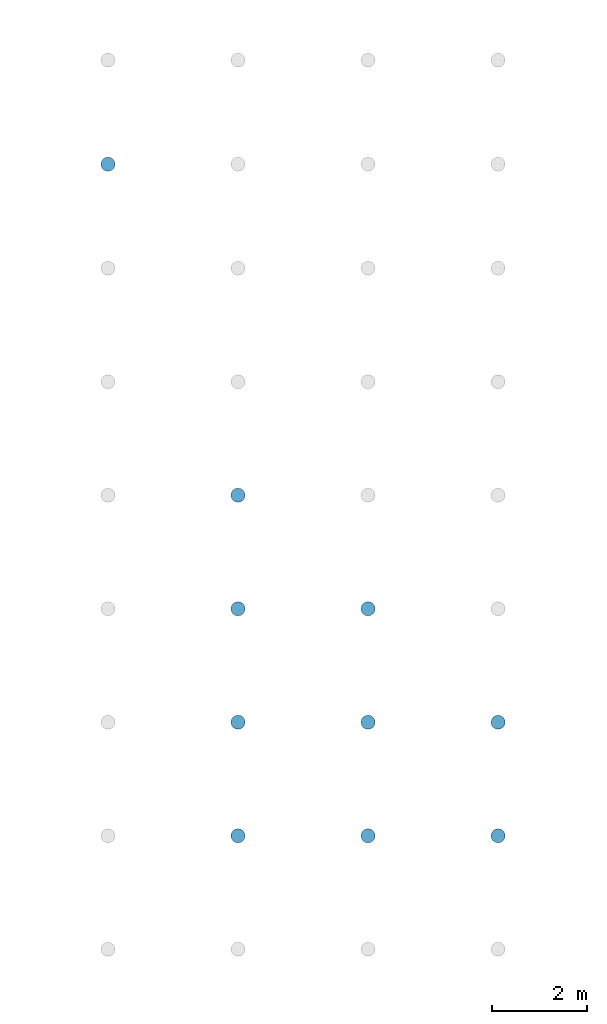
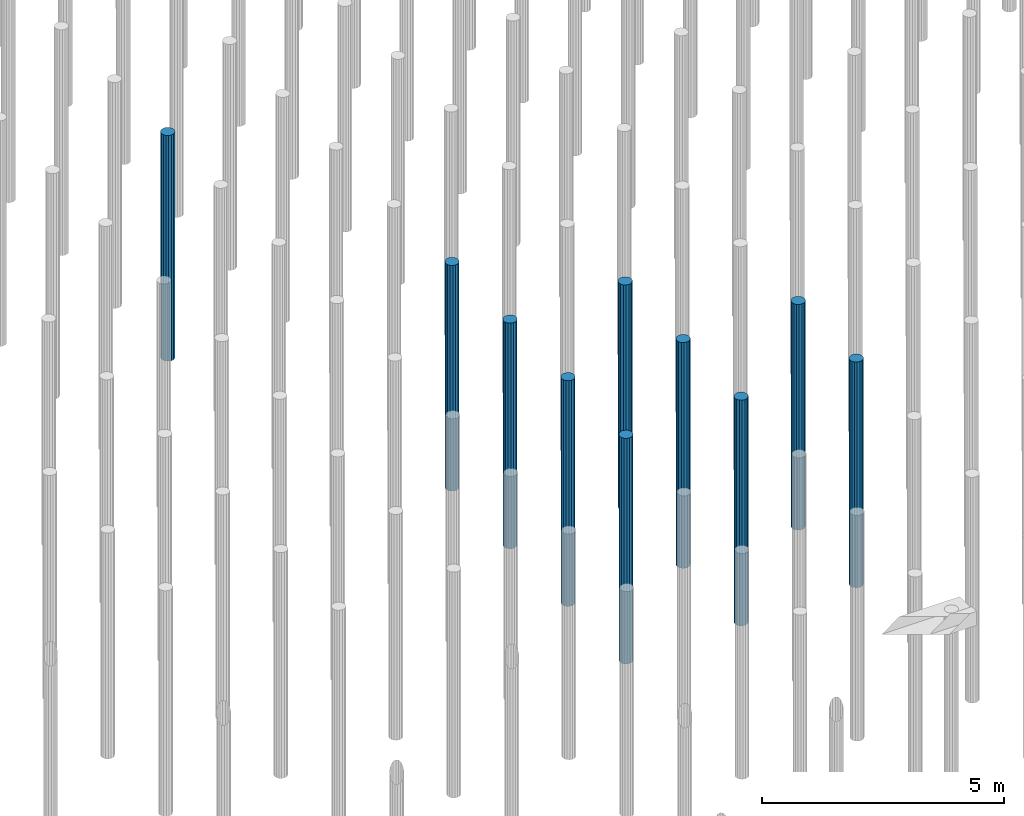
# One storey, part 60 of 102: 10 slabs.
"""IFC2X3 building model written with IfcOpenShell, lengths in millimetres."""

import ifcopenshell
import ifcopenshell.guid

model = None  # the IFC model being written
_history = None  # IfcOwnerHistory: only IFC2X3 demands one
_inside = {}  # id of a spatial element -> (the spatial element, [elements in it])
_under = {}  # id of a project, library or spatial element -> (it, [spatial elements below it])
_declared = {}  # id of a project -> (the project, [libraries it declares])
_typed = {}  # id of a type object -> (the type object, [elements of that type])
_made_of = {}  # id of a material, layer set ... -> (it, [elements and type objects made of it])


def new_model(schema):
    """Start an empty IFC model of exactly this schema.

    Asked for "IFC4X3", IfcOpenShell would pick the latest addendum, in which some entities
    have other attributes; the version numbers below select the first issue.
    IFC2X3 requires an IfcOwnerHistory on every rooted entity: one is made here for all.
    """
    global model, _history
    if schema == "IFC4X3":
        model = ifcopenshell.file(schema_version=(4, 3, 0, 0))
    else:
        model = ifcopenshell.file(schema=schema)
    _inside.clear()
    _under.clear()
    _declared.clear()
    _typed.clear()
    _made_of.clear()
    _history = None
    if model.schema == "IFC2X3":
        org = make("IfcOrganization", Name="unknown")
        user = make(
            "IfcPersonAndOrganization",
            ThePerson=make("IfcPerson", FamilyName="unknown"),
            TheOrganization=org,
        )
        app = make(
            "IfcApplication",
            ApplicationDeveloper=org,
            Version="unknown",
            ApplicationFullName="unknown",
            ApplicationIdentifier="unknown",
        )
        _history = make(
            "IfcOwnerHistory",
            OwningUser=user,
            OwningApplication=app,
            ChangeAction="ADDED",
            CreationDate=0,
        )
    return model


def make(cls, **values):
    """One entity of the class cls with the attributes given. An attribute that is None is left unset."""
    return model.create_entity(
        cls, **{name: value for name, value in values.items() if value is not None}
    )


def entity(cls, *values):
    """Any entity or typed value of the class cls, its attributes in the order of the schema. None: left unset."""
    e = model.create_entity(cls)
    for i, value in enumerate(values):
        if value is not None:
            e[i] = value
    return e


def rooted(cls, **values):
    """An entity with a GlobalId (a new one), such as an element, a storey or a relation."""
    return make(cls, GlobalId=ifcopenshell.guid.new(), OwnerHistory=_history, **values)


def si_unit(unit_type, name, prefix=None):
    """IfcSIUnit, for example si_unit("LENGTHUNIT", "METRE", prefix="MILLI")."""
    return make("IfcSIUnit", UnitType=unit_type, Prefix=prefix, Name=name)


def converted_unit(unit_type, name, factor, base, dimensions=None, offset=None):
    """IfcConversionBasedUnit, such as the inch: factor (a typed value) times the base unit."""
    return make(
        "IfcConversionBasedUnit"
        if offset is None
        else "IfcConversionBasedUnitWithOffset",
        ConversionOffset=offset,
        Dimensions=None
        if dimensions is None
        else entity("IfcDimensionalExponents", *dimensions),
        UnitType=unit_type,
        Name=name,
        ConversionFactor=make(
            "IfcMeasureWithUnit", ValueComponent=factor, UnitComponent=base
        ),
    )


def derived_unit(unit_type, elements):
    """IfcDerivedUnit: a product of units, each with its exponent."""
    return make(
        "IfcDerivedUnit",
        Elements=[
            make("IfcDerivedUnitElement", Unit=unit, Exponent=power)
            for unit, power in elements
        ],
        UnitType=unit_type,
    )


def money_unit(currency):
    """IfcMonetaryUnit."""
    return make("IfcMonetaryUnit", Currency=currency)


def assignment(units):
    """IfcUnitAssignment: the units of a project."""
    return None if units is None else make("IfcUnitAssignment", Units=units)


def point(xyz):
    """IfcCartesianPoint."""
    return None if xyz is None else make("IfcCartesianPoint", Coordinates=xyz)


def direction(xyz):
    """IfcDirection."""
    return None if xyz is None else make("IfcDirection", DirectionRatios=xyz)


def frame(location, z_axis=None, x_axis=None):
    """IfcAxis2Placement3D, a coordinate frame: its origin and axes. An axis left out is left unset."""
    return make(
        "IfcAxis2Placement3D",
        Location=point(location),
        Axis=direction(z_axis),
        RefDirection=direction(x_axis),
    )


def origin_with_axes():
    """The frame at (0, 0, 0) with the z axis (0, 0, 1) and the x axis (1, 0, 0) written out."""
    return frame((0.0, 0.0, 0.0), z_axis=(0.0, 0.0, 1.0), x_axis=(1.0, 0.0, 0.0))


def place(relative_to, where):
    """IfcLocalPlacement: puts the frame where relative to a parent placement (None: the world)."""
    return make(
        "IfcLocalPlacement", PlacementRelTo=relative_to, RelativePlacement=where
    )


def context(
    kind, dimensions, precision=None, world=None, true_north=None, identifier=None
):
    """IfcGeometricRepresentationContext, for example the 3D "Model" context."""
    return make(
        "IfcGeometricRepresentationContext",
        ContextIdentifier=identifier,
        ContextType=kind,
        CoordinateSpaceDimension=dimensions,
        Precision=precision,
        WorldCoordinateSystem=world,
        TrueNorth=true_north,
    )


def subcontext(parent, identifier, kind, view, scale=None):
    """IfcGeometricRepresentationSubContext, for example "Body" below "Model"."""
    return make(
        "IfcGeometricRepresentationSubContext",
        ContextIdentifier=identifier,
        ContextType=kind,
        ParentContext=parent,
        TargetScale=scale,
        TargetView=view,
    )


def project(units=None, contexts=None):
    """IfcProject with its units and contexts."""
    return rooted(
        "IfcProject",
        Name="project",
        RepresentationContexts=contexts,
        UnitsInContext=assignment(units),
    )


def spatial(cls, under=None, at=None, **own):
    """A site, building, storey or space (cls), placed at a placement, below another one or the project."""
    s = rooted(cls, ObjectPlacement=at, **own)
    if under is not None:
        _under.setdefault(under.id(), (under, []))[1].append(s)
    return s


def faces_of(points, faces, orient=None, outer=None):
    """IfcFace entities. A face is a list of loops; a loop is a list of indices into points, from 0.

    orient and outer hold one flag for each loop. By default every Orientation is true, the
    first loop of a face is its IfcFaceOuterBound and the others are IfcFaceBound.
    """
    made = []
    for i, loops in enumerate(faces):
        bounds = []
        for j, loop in enumerate(loops):
            is_outer = j == 0 if outer is None else outer[i][j]
            bounds.append(
                make(
                    "IfcFaceOuterBound" if is_outer else "IfcFaceBound",
                    Bound=make("IfcPolyLoop", Polygon=[points[k] for k in loop]),
                    Orientation=True if orient is None else orient[i][j],
                )
            )
        made.append(make("IfcFace", Bounds=bounds))
    return made


def faceted_brep(points, faces, orient=None, outer=None, voids=None):
    """IfcFacetedBrep: a solid bounded by flat faces; with voids (closed shells), ...WithVoids."""
    shared = [point(p) for p in points]
    hull = make("IfcClosedShell", CfsFaces=faces_of(shared, faces, orient, outer))
    if voids is None:
        return make("IfcFacetedBrep", Outer=hull)
    return make(
        "IfcFacetedBrepWithVoids",
        Outer=hull,
        Voids=[
            make(cls, CfsFaces=faces_of(shared, fs, o, b)) for cls, fs, o, b in voids
        ],
    )


def shape(context_of_items, identifier, shape_type, items):
    """IfcShapeRepresentation: the items that make up one representation, for example the "Body"."""
    return make(
        "IfcShapeRepresentation",
        ContextOfItems=context_of_items,
        RepresentationIdentifier=identifier,
        RepresentationType=shape_type,
        Items=items,
    )


def material(Name=None, Category=None):
    """IfcMaterial."""
    return make("IfcMaterial", Name=Name, Category=Category)


def made_of(thing, what):
    """Note that an element or type object is made of a material, layer set ...; save() writes the relation."""
    if what is not None:
        _made_of.setdefault(what.id(), (what, []))[1].append(thing)
    return thing


def type_object(cls, material=None, **own):
    """A type object (cls), such as IfcWallType, which elements share."""
    return made_of(rooted(cls, **own), material)


def element(
    cls,
    number,
    at=None,
    inside=None,
    cuts=None,
    type_object=None,
    material=None,
    context=None,
    identifier="Body",
    shape_type=None,
    held_by="IfcProductDefinitionShape",
    body=None,
    shapes=None,
    **own,
):
    """One element of the class cls, such as IfcWall. Its Tag is "e" and its number.

    at: its placement. inside: the storey or other place that contains it. cuts: it is an
    opening in that element (IfcRelVoidsElement). A single representation is given by context,
    identifier, shape_type and body (its items); several are given by shapes. held_by: the class
    of the entity that holds the representations. save() writes the other relations.
    """
    e = rooted(cls, Tag="e%d" % number, ObjectPlacement=at, **own)
    if body is not None:
        shapes = [shape(context, identifier, shape_type, body)]
    if shapes is not None:
        e.Representation = make(held_by, Representations=shapes)
    if inside is not None:
        _inside.setdefault(inside.id(), (inside, []))[1].append(e)
    if cuts is not None:
        rooted(
            "IfcRelVoidsElement", RelatingBuildingElement=cuts, RelatedOpeningElement=e
        )
    if type_object is not None:
        _typed.setdefault(type_object.id(), (type_object, []))[1].append(e)
    return made_of(e, material)


def aggregate(whole, parts):
    """IfcRelAggregates: a whole, such as a stair, and the parts it consists of."""
    return rooted("IfcRelAggregates", RelatingObject=whole, RelatedObjects=parts)


def save(model, path):
    """Write the relations noted so far, then the file.

    IfcRelAggregates (storeys below a building ...), IfcRelContainedInSpatialStructure (elements
    in a storey), IfcRelDefinesByType, IfcRelAssociatesMaterial and IfcRelDeclares: one each for
    every whole, place, type object, material and project.
    """
    for whole, parts in _under.values():
        aggregate(whole, parts)
    for where, things in _inside.values():
        rooted(
            "IfcRelContainedInSpatialStructure",
            RelatedElements=things,
            RelatingStructure=where,
        )
    for kind, things in _typed.values():
        rooted("IfcRelDefinesByType", RelatedObjects=things, RelatingType=kind)
    for what, things in _made_of.values():
        rooted("IfcRelAssociatesMaterial", RelatedObjects=things, RelatingMaterial=what)
    for by, libraries in _declared.values():
        rooted("IfcRelDeclares", RelatingContext=by, RelatedDefinitions=libraries)
    model.write(path)


model = new_model("IFC2X3")

# Units and contexts
model_context = context("Model", 3, precision=0.01, world=origin_with_axes(), true_north=direction((0.0, 1.0)))
body_context = subcontext(model_context, "Body", "Model", "MODEL_VIEW")
ifc_project = project(units=[si_unit("LENGTHUNIT", "METRE", prefix="MILLI"), si_unit("AREAUNIT", "SQUARE_METRE"), si_unit("VOLUMEUNIT", "CUBIC_METRE"), converted_unit("PLANEANGLEUNIT", "DEGREE", entity("IfcPlaneAngleMeasure", 0.0174532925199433), si_unit("PLANEANGLEUNIT", "RADIAN"), dimensions=[0, 0, 0, 0, 0, 0, 0]), money_unit("EUR"), converted_unit("TIMEUNIT", "Year", entity("IfcTimeMeasure", 31557600.0), si_unit("TIMEUNIT", "SECOND"), dimensions=[0, 0, 1, 0, 0, 0, 0]), si_unit("MASSUNIT", "GRAM", prefix="KILO"), si_unit("THERMODYNAMICTEMPERATUREUNIT", "DEGREE_CELSIUS"), si_unit("LUMINOUSINTENSITYUNIT", "LUMEN"), si_unit("ENERGYUNIT", "JOULE", prefix="MEGA"), derived_unit("THERMALCONDUCTANCEUNIT", [(si_unit("POWERUNIT", "WATT"), 1), (si_unit("LENGTHUNIT", "METRE"), -1), (si_unit("THERMODYNAMICTEMPERATUREUNIT", "KELVIN"), -1)]), derived_unit("SPECIFICHEATCAPACITYUNIT", [(si_unit("ENERGYUNIT", "JOULE"), 1), (si_unit("MASSUNIT", "GRAM", prefix="KILO"), -1), (si_unit("THERMODYNAMICTEMPERATUREUNIT", "KELVIN"), -1)]), derived_unit("MASSDENSITYUNIT", [(si_unit("MASSUNIT", "GRAM", prefix="KILO"), 1), (si_unit("VOLUMEUNIT", "CUBIC_METRE"), -1)])], contexts=[model_context])

# Site, building, storey
site_placement = place(None, origin_with_axes())
site = spatial("IfcSite", under=ifc_project, at=site_placement, Name="Site", CompositionType="ELEMENT")
building_placement = place(site_placement, origin_with_axes())
building = spatial("IfcBuilding", under=site, at=building_placement, Name="Naam gebouw", CompositionType="ELEMENT")
storey_placement = place(building_placement, frame((0.0, 0.0, -1020.0), z_axis=(0.0, 0.0, 1.0), x_axis=(1.0, 0.0, 0.0)))
storey = spatial("IfcBuildingStorey", under=building, at=storey_placement, Name="-2 fundering", CompositionType="ELEMENT", Elevation=-1020.0)

# Slabs
ifc_material = material(Name="WSP_beton - ihwg beton")
slab_type_1 = type_object("IfcSlabType", Name="Slab 495", PredefinedType="NOTDEFINED")
slab_1_placement = place(storey_placement, frame((25299.99999999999, 30000.0, 979.9999952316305), z_axis=(0.0, 0.0, 1.0), x_axis=(1.0, 0.0, 0.0)))
element("IfcSlab", 1, at=slab_1_placement, inside=storey, type_object=slab_type_1, material=ifc_material, Name="17_WSP_FD_beton - fundatiepaal v21-2:ø300 (schroef)", PredefinedType="NOTDEFINED", context=body_context, shape_type="Brep", body=[
    faceted_brep([(86876.0, 43201.0, -5980.0), (86874.0, 43201.0, -5980.0), (86874.0, 43201.0, -5978.000000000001), (86876.0, 43201.0, -5978.000000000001), (86876.0, 43199.00000000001, -5980.0), (86874.0, 43199.00000000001, -5980.0), (86874.0, 43199.00000000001, -5978.000000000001), (86876.0, 43199.00000000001, -5978.000000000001)], [[[0, 1, 2, 3]], [[0, 4, 5, 1]], [[1, 5, 6, 2]], [[3, 2, 6, 7]], [[4, 0, 3, 7]], [[5, 4, 7, 6]]]),
    faceted_brep([(86725.0, 43200.0, -5980.0), (86736.41807012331, 43142.59748514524, -5980.0), (86736.41807012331, 43142.59748514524, -280.0000000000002), (86725.0, 43200.0, -280.0000000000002), (86736.41807012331, 43257.40251485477, -5980.0), (86768.93398282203, 43306.06601717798, -5980.0), (86817.59748514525, 43338.58192987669, -5980.0), (86875.0, 43350.0, -5980.0), (86932.40251485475, 43338.58192987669, -5980.0), (86981.06601717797, 43306.06601717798, -5980.0), (87013.58192987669, 43257.40251485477, -5980.0), (87025.0, 43200.0, -5980.0), (87013.58192987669, 43142.59748514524, -5980.0), (86981.06601717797, 43093.93398282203, -5980.0), (86932.40251485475, 43061.41807012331, -5980.0), (86875.0, 43050.00000000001, -5980.0), (86817.59748514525, 43061.41807012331, -5980.0), (86768.93398282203, 43093.93398282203, -5980.0), (86768.93398282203, 43093.93398282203, -280.0000000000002), (86817.59748514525, 43061.41807012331, -280.0000000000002), (86875.0, 43050.00000000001, -280.0000000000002), (86932.40251485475, 43061.41807012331, -280.0000000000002), (86981.06601717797, 43093.93398282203, -280.0000000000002), (87013.58192987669, 43142.59748514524, -280.0000000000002), (87025.0, 43200.0, -280.0000000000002), (87013.58192987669, 43257.40251485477, -280.0000000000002), (86981.06601717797, 43306.06601717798, -280.0000000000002), (86932.40251485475, 43338.58192987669, -280.0000000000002), (86875.0, 43350.0, -280.0000000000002), (86817.59748514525, 43338.58192987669, -280.0000000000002), (86768.93398282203, 43306.06601717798, -280.0000000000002), (86736.41807012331, 43257.40251485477, -280.0000000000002)], [[[0, 1, 2, 3]], [[0, 4, 5, 6, 7, 8, 9, 10, 11, 12, 13, 14, 15, 16, 17, 1]], [[1, 17, 18, 2]], [[3, 2, 18, 19, 20, 21, 22, 23, 24, 25, 26, 27, 28, 29, 30, 31]], [[4, 0, 3, 31]], [[5, 4, 31, 30]], [[6, 5, 30, 29]], [[7, 6, 29, 28]], [[8, 7, 28, 27]], [[9, 8, 27, 26]], [[10, 9, 26, 25]], [[11, 10, 25, 24]], [[12, 11, 24, 23]], [[13, 12, 23, 22]], [[14, 13, 22, 21]], [[15, 14, 21, 20]], [[16, 15, 20, 19]], [[17, 16, 19, 18]]]),
])
slab_type_2 = type_object("IfcSlabType", Name="Slab 507", PredefinedType="NOTDEFINED")
slab_2_placement = place(storey_placement, frame((25299.99999999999, 30000.0, 979.9999952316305), z_axis=(0.0, 0.0, 1.0), x_axis=(1.0, 0.0, 0.0)))
element("IfcSlab", 2, at=slab_2_placement, inside=storey, type_object=slab_type_2, material=ifc_material, Name="17_WSP_FD_beton - fundatiepaal v21-2:ø300 (schroef)", PredefinedType="NOTDEFINED", context=body_context, shape_type="Brep", body=[
    faceted_brep([(81376.0, 40800.99999999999, -5980.0), (81374.0, 40800.99999999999, -5980.0), (81374.0, 40800.99999999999, -5978.000000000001), (81376.0, 40800.99999999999, -5978.000000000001), (81376.0, 40799.0, -5980.0), (81374.0, 40799.0, -5980.0), (81374.0, 40799.0, -5978.000000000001), (81376.0, 40799.0, -5978.000000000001)], [[[0, 1, 2, 3]], [[0, 4, 5, 1]], [[1, 5, 6, 2]], [[3, 2, 6, 7]], [[4, 0, 3, 7]], [[5, 4, 7, 6]]]),
    faceted_brep([(81225.0, 40800.0, -5980.0), (81236.41807012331, 40742.59748514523, -5980.0), (81236.41807012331, 40742.59748514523, -280.0000000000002), (81225.0, 40800.0, -280.0000000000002), (81236.41807012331, 40857.40251485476, -5980.0), (81268.93398282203, 40906.06601717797, -5980.0), (81317.59748514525, 40938.58192987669, -5980.0), (81375.0, 40949.99999999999, -5980.0), (81432.40251485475, 40938.58192987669, -5980.0), (81481.06601717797, 40906.06601717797, -5980.0), (81513.58192987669, 40857.40251485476, -5980.0), (81525.0, 40800.0, -5980.0), (81513.58192987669, 40742.59748514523, -5980.0), (81481.06601717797, 40693.93398282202, -5980.0), (81432.40251485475, 40661.41807012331, -5980.0), (81375.0, 40650.0, -5980.0), (81317.59748514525, 40661.41807012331, -5980.0), (81268.93398282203, 40693.93398282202, -5980.0), (81268.93398282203, 40693.93398282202, -280.0000000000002), (81317.59748514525, 40661.41807012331, -280.0000000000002), (81375.0, 40650.0, -280.0000000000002), (81432.40251485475, 40661.41807012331, -280.0000000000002), (81481.06601717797, 40693.93398282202, -280.0000000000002), (81513.58192987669, 40742.59748514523, -280.0000000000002), (81525.0, 40800.0, -280.0000000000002), (81513.58192987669, 40857.40251485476, -280.0000000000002), (81481.06601717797, 40906.06601717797, -280.0000000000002), (81432.40251485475, 40938.58192987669, -280.0000000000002), (81375.0, 40949.99999999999, -280.0000000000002), (81317.59748514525, 40938.58192987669, -280.0000000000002), (81268.93398282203, 40906.06601717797, -280.0000000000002), (81236.41807012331, 40857.40251485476, -280.0000000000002)], [[[0, 1, 2, 3]], [[0, 4, 5, 6, 7, 8, 9, 10, 11, 12, 13, 14, 15, 16, 17, 1]], [[1, 17, 18, 2]], [[3, 2, 18, 19, 20, 21, 22, 23, 24, 25, 26, 27, 28, 29, 30, 31]], [[4, 0, 3, 31]], [[5, 4, 31, 30]], [[6, 5, 30, 29]], [[7, 6, 29, 28]], [[8, 7, 28, 27]], [[9, 8, 27, 26]], [[10, 9, 26, 25]], [[11, 10, 25, 24]], [[12, 11, 24, 23]], [[13, 12, 23, 22]], [[14, 13, 22, 21]], [[15, 14, 21, 20]], [[16, 15, 20, 19]], [[17, 16, 19, 18]]]),
])
slab_type_3 = type_object("IfcSlabType", Name="Slab 509", PredefinedType="NOTDEFINED")
slab_3_placement = place(storey_placement, frame((25299.99999999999, 30000.0, 979.9999952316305), z_axis=(0.0, 0.0, 1.0), x_axis=(1.0, 0.0, 0.0)))
element("IfcSlab", 3, at=slab_3_placement, inside=storey, type_object=slab_type_3, material=ifc_material, Name="17_WSP_FD_beton - fundatiepaal v21-2:ø300 (schroef)", PredefinedType="NOTDEFINED", context=body_context, shape_type="Brep", body=[
    faceted_brep([(86876.0, 40800.99999999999, -5980.0), (86874.0, 40800.99999999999, -5980.0), (86874.0, 40800.99999999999, -5978.000000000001), (86876.0, 40800.99999999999, -5978.000000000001), (86876.0, 40799.0, -5980.0), (86874.0, 40799.0, -5980.0), (86874.0, 40799.0, -5978.000000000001), (86876.0, 40799.0, -5978.000000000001)], [[[0, 1, 2, 3]], [[0, 4, 5, 1]], [[1, 5, 6, 2]], [[3, 2, 6, 7]], [[4, 0, 3, 7]], [[5, 4, 7, 6]]]),
    faceted_brep([(86725.0, 40800.0, -5980.0), (86736.41807012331, 40742.59748514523, -5980.0), (86736.41807012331, 40742.59748514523, -280.0000000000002), (86725.0, 40800.0, -280.0000000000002), (86736.41807012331, 40857.40251485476, -5980.0), (86768.93398282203, 40906.06601717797, -5980.0), (86817.59748514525, 40938.58192987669, -5980.0), (86875.0, 40949.99999999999, -5980.0), (86932.40251485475, 40938.58192987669, -5980.0), (86981.06601717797, 40906.06601717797, -5980.0), (87013.58192987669, 40857.40251485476, -5980.0), (87025.0, 40800.0, -5980.0), (87013.58192987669, 40742.59748514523, -5980.0), (86981.06601717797, 40693.93398282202, -5980.0), (86932.40251485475, 40661.41807012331, -5980.0), (86875.0, 40650.0, -5980.0), (86817.59748514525, 40661.41807012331, -5980.0), (86768.93398282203, 40693.93398282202, -5980.0), (86768.93398282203, 40693.93398282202, -280.0000000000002), (86817.59748514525, 40661.41807012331, -280.0000000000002), (86875.0, 40650.0, -280.0000000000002), (86932.40251485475, 40661.41807012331, -280.0000000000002), (86981.06601717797, 40693.93398282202, -280.0000000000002), (87013.58192987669, 40742.59748514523, -280.0000000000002), (87025.0, 40800.0, -280.0000000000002), (87013.58192987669, 40857.40251485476, -280.0000000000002), (86981.06601717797, 40906.06601717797, -280.0000000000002), (86932.40251485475, 40938.58192987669, -280.0000000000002), (86875.0, 40949.99999999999, -280.0000000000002), (86817.59748514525, 40938.58192987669, -280.0000000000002), (86768.93398282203, 40906.06601717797, -280.0000000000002), (86736.41807012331, 40857.40251485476, -280.0000000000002)], [[[0, 1, 2, 3]], [[0, 4, 5, 6, 7, 8, 9, 10, 11, 12, 13, 14, 15, 16, 17, 1]], [[1, 17, 18, 2]], [[3, 2, 18, 19, 20, 21, 22, 23, 24, 25, 26, 27, 28, 29, 30, 31]], [[4, 0, 3, 31]], [[5, 4, 31, 30]], [[6, 5, 30, 29]], [[7, 6, 29, 28]], [[8, 7, 28, 27]], [[9, 8, 27, 26]], [[10, 9, 26, 25]], [[11, 10, 25, 24]], [[12, 11, 24, 23]], [[13, 12, 23, 22]], [[14, 13, 22, 21]], [[15, 14, 21, 20]], [[16, 15, 20, 19]], [[17, 16, 19, 18]]]),
])
slab_type_4 = type_object("IfcSlabType", Name="Slab 508", PredefinedType="NOTDEFINED")
slab_4_placement = place(storey_placement, frame((25299.99999999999, 30000.0, 979.9999952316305), z_axis=(0.0, 0.0, 1.0), x_axis=(1.0, 0.0, 0.0)))
element("IfcSlab", 4, at=slab_4_placement, inside=storey, type_object=slab_type_4, material=ifc_material, Name="17_WSP_FD_beton - fundatiepaal v21-2:ø300 (schroef)", PredefinedType="NOTDEFINED", context=body_context, shape_type="Brep", body=[
    faceted_brep([(84126.0, 40800.99999999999, -5980.0), (84124.0, 40800.99999999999, -5980.0), (84124.0, 40800.99999999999, -5978.000000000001), (84126.0, 40800.99999999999, -5978.000000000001), (84126.0, 40799.0, -5980.0), (84124.0, 40799.0, -5980.0), (84124.0, 40799.0, -5978.000000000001), (84126.0, 40799.0, -5978.000000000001)], [[[0, 1, 2, 3]], [[0, 4, 5, 1]], [[1, 5, 6, 2]], [[3, 2, 6, 7]], [[4, 0, 3, 7]], [[5, 4, 7, 6]]]),
    faceted_brep([(83975.0, 40800.0, -5980.0), (83986.41807012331, 40742.59748514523, -5980.0), (83986.41807012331, 40742.59748514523, -280.0000000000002), (83975.0, 40800.0, -280.0000000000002), (83986.41807012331, 40857.40251485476, -5980.0), (84018.93398282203, 40906.06601717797, -5980.0), (84067.59748514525, 40938.58192987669, -5980.0), (84125.0, 40949.99999999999, -5980.0), (84182.40251485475, 40938.58192987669, -5980.0), (84231.06601717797, 40906.06601717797, -5980.0), (84263.58192987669, 40857.40251485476, -5980.0), (84275.0, 40800.0, -5980.0), (84263.58192987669, 40742.59748514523, -5980.0), (84231.06601717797, 40693.93398282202, -5980.0), (84182.40251485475, 40661.41807012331, -5980.0), (84125.0, 40650.0, -5980.0), (84067.59748514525, 40661.41807012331, -5980.0), (84018.93398282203, 40693.93398282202, -5980.0), (84018.93398282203, 40693.93398282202, -280.0000000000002), (84067.59748514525, 40661.41807012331, -280.0000000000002), (84125.0, 40650.0, -280.0000000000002), (84182.40251485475, 40661.41807012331, -280.0000000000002), (84231.06601717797, 40693.93398282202, -280.0000000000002), (84263.58192987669, 40742.59748514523, -280.0000000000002), (84275.0, 40800.0, -280.0000000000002), (84263.58192987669, 40857.40251485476, -280.0000000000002), (84231.06601717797, 40906.06601717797, -280.0000000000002), (84182.40251485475, 40938.58192987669, -280.0000000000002), (84125.0, 40949.99999999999, -280.0000000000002), (84067.59748514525, 40938.58192987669, -280.0000000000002), (84018.93398282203, 40906.06601717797, -280.0000000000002), (83986.41807012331, 40857.40251485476, -280.0000000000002)], [[[0, 1, 2, 3]], [[0, 4, 5, 6, 7, 8, 9, 10, 11, 12, 13, 14, 15, 16, 17, 1]], [[1, 17, 18, 2]], [[3, 2, 18, 19, 20, 21, 22, 23, 24, 25, 26, 27, 28, 29, 30, 31]], [[4, 0, 3, 31]], [[5, 4, 31, 30]], [[6, 5, 30, 29]], [[7, 6, 29, 28]], [[8, 7, 28, 27]], [[9, 8, 27, 26]], [[10, 9, 26, 25]], [[11, 10, 25, 24]], [[12, 11, 24, 23]], [[13, 12, 23, 22]], [[14, 13, 22, 21]], [[15, 14, 21, 20]], [[16, 15, 20, 19]], [[17, 16, 19, 18]]]),
])
slab_type_5 = type_object("IfcSlabType", Name="Slab 511", PredefinedType="NOTDEFINED")
slab_5_placement = place(storey_placement, frame((25299.99999999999, 30000.0, 979.9999952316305), z_axis=(0.0, 0.0, 1.0), x_axis=(1.0, 0.0, 0.0)))
element("IfcSlab", 5, at=slab_5_placement, inside=storey, type_object=slab_type_5, material=ifc_material, Name="17_WSP_FD_beton - fundatiepaal v21-2:ø300 (schroef)", PredefinedType="NOTDEFINED", context=body_context, shape_type="Brep", body=[
    faceted_brep([(81376.0, 45601.0, -5980.0), (81374.0, 45601.0, -5980.0), (81374.0, 45601.0, -5978.000000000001), (81376.0, 45601.0, -5978.000000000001), (81376.0, 45599.00000000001, -5980.0), (81374.0, 45599.00000000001, -5980.0), (81374.0, 45599.00000000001, -5978.000000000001), (81376.0, 45599.00000000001, -5978.000000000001)], [[[0, 1, 2, 3]], [[0, 4, 5, 1]], [[1, 5, 6, 2]], [[3, 2, 6, 7]], [[4, 0, 3, 7]], [[5, 4, 7, 6]]]),
    faceted_brep([(81225.0, 45600.0, -5980.0), (81236.41807012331, 45542.59748514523, -5980.0), (81236.41807012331, 45542.59748514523, -280.0000000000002), (81225.0, 45600.0, -280.0000000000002), (81236.41807012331, 45657.40251485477, -5980.0), (81268.93398282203, 45706.06601717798, -5980.0), (81317.59748514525, 45738.58192987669, -5980.0), (81375.0, 45750.0, -5980.0), (81432.40251485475, 45738.58192987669, -5980.0), (81481.06601717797, 45706.06601717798, -5980.0), (81513.58192987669, 45657.40251485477, -5980.0), (81525.0, 45600.0, -5980.0), (81513.58192987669, 45542.59748514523, -5980.0), (81481.06601717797, 45493.93398282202, -5980.0), (81432.40251485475, 45461.41807012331, -5980.0), (81375.0, 45450.0, -5980.0), (81317.59748514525, 45461.41807012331, -5980.0), (81268.93398282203, 45493.93398282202, -5980.0), (81268.93398282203, 45493.93398282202, -280.0000000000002), (81317.59748514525, 45461.41807012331, -280.0000000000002), (81375.0, 45450.0, -280.0000000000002), (81432.40251485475, 45461.41807012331, -280.0000000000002), (81481.06601717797, 45493.93398282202, -280.0000000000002), (81513.58192987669, 45542.59748514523, -280.0000000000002), (81525.0, 45600.0, -280.0000000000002), (81513.58192987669, 45657.40251485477, -280.0000000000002), (81481.06601717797, 45706.06601717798, -280.0000000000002), (81432.40251485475, 45738.58192987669, -280.0000000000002), (81375.0, 45750.0, -280.0000000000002), (81317.59748514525, 45738.58192987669, -280.0000000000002), (81268.93398282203, 45706.06601717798, -280.0000000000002), (81236.41807012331, 45657.40251485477, -280.0000000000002)], [[[0, 1, 2, 3]], [[0, 4, 5, 6, 7, 8, 9, 10, 11, 12, 13, 14, 15, 16, 17, 1]], [[1, 17, 18, 2]], [[3, 2, 18, 19, 20, 21, 22, 23, 24, 25, 26, 27, 28, 29, 30, 31]], [[4, 0, 3, 31]], [[5, 4, 31, 30]], [[6, 5, 30, 29]], [[7, 6, 29, 28]], [[8, 7, 28, 27]], [[9, 8, 27, 26]], [[10, 9, 26, 25]], [[11, 10, 25, 24]], [[12, 11, 24, 23]], [[13, 12, 23, 22]], [[14, 13, 22, 21]], [[15, 14, 21, 20]], [[16, 15, 20, 19]], [[17, 16, 19, 18]]]),
])
slab_type_6 = type_object("IfcSlabType", Name="Slab 512", PredefinedType="NOTDEFINED")
slab_6_placement = place(storey_placement, frame((25299.99999999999, 30000.0, 979.9999952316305), z_axis=(0.0, 0.0, 1.0), x_axis=(1.0, 0.0, 0.0)))
element("IfcSlab", 6, at=slab_6_placement, inside=storey, type_object=slab_type_6, material=ifc_material, Name="17_WSP_FD_beton - fundatiepaal v21-2:ø300 (schroef)", PredefinedType="NOTDEFINED", context=body_context, shape_type="Brep", body=[
    faceted_brep([(84126.0, 45601.0, -5980.0), (84124.0, 45601.0, -5980.0), (84124.0, 45601.0, -5978.000000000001), (84126.0, 45601.0, -5978.000000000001), (84126.0, 45599.00000000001, -5980.0), (84124.0, 45599.00000000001, -5980.0), (84124.0, 45599.00000000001, -5978.000000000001), (84126.0, 45599.00000000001, -5978.000000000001)], [[[0, 1, 2, 3]], [[0, 4, 5, 1]], [[1, 5, 6, 2]], [[3, 2, 6, 7]], [[4, 0, 3, 7]], [[5, 4, 7, 6]]]),
    faceted_brep([(83975.0, 45600.0, -5980.0), (83986.41807012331, 45542.59748514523, -5980.0), (83986.41807012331, 45542.59748514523, -280.0000000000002), (83975.0, 45600.0, -280.0000000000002), (83986.41807012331, 45657.40251485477, -5980.0), (84018.93398282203, 45706.06601717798, -5980.0), (84067.59748514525, 45738.58192987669, -5980.0), (84125.0, 45750.0, -5980.0), (84182.40251485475, 45738.58192987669, -5980.0), (84231.06601717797, 45706.06601717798, -5980.0), (84263.58192987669, 45657.40251485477, -5980.0), (84275.0, 45600.0, -5980.0), (84263.58192987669, 45542.59748514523, -5980.0), (84231.06601717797, 45493.93398282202, -5980.0), (84182.40251485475, 45461.41807012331, -5980.0), (84125.0, 45450.0, -5980.0), (84067.59748514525, 45461.41807012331, -5980.0), (84018.93398282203, 45493.93398282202, -5980.0), (84018.93398282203, 45493.93398282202, -280.0000000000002), (84067.59748514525, 45461.41807012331, -280.0000000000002), (84125.0, 45450.0, -280.0000000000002), (84182.40251485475, 45461.41807012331, -280.0000000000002), (84231.06601717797, 45493.93398282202, -280.0000000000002), (84263.58192987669, 45542.59748514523, -280.0000000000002), (84275.0, 45600.0, -280.0000000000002), (84263.58192987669, 45657.40251485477, -280.0000000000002), (84231.06601717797, 45706.06601717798, -280.0000000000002), (84182.40251485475, 45738.58192987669, -280.0000000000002), (84125.0, 45750.0, -280.0000000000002), (84067.59748514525, 45738.58192987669, -280.0000000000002), (84018.93398282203, 45706.06601717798, -280.0000000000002), (83986.41807012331, 45657.40251485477, -280.0000000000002)], [[[0, 1, 2, 3]], [[0, 4, 5, 6, 7, 8, 9, 10, 11, 12, 13, 14, 15, 16, 17, 1]], [[1, 17, 18, 2]], [[3, 2, 18, 19, 20, 21, 22, 23, 24, 25, 26, 27, 28, 29, 30, 31]], [[4, 0, 3, 31]], [[5, 4, 31, 30]], [[6, 5, 30, 29]], [[7, 6, 29, 28]], [[8, 7, 28, 27]], [[9, 8, 27, 26]], [[10, 9, 26, 25]], [[11, 10, 25, 24]], [[12, 11, 24, 23]], [[13, 12, 23, 22]], [[14, 13, 22, 21]], [[15, 14, 21, 20]], [[16, 15, 20, 19]], [[17, 16, 19, 18]]]),
])
slab_type_7 = type_object("IfcSlabType", Name="Slab 525", PredefinedType="NOTDEFINED")
slab_7_placement = place(storey_placement, frame((25299.99999999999, 30000.0, 979.9999952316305), z_axis=(0.0, 0.0, 1.0), x_axis=(1.0, 0.0, 0.0)))
element("IfcSlab", 7, at=slab_7_placement, inside=storey, type_object=slab_type_7, material=ifc_material, Name="17_WSP_FD_beton - fundatiepaal v21-2:ø300 (schroef)", PredefinedType="NOTDEFINED", context=body_context, shape_type="Brep", body=[
    faceted_brep([(81376.0, 43201.0, -5980.0), (81374.0, 43201.0, -5980.0), (81374.0, 43201.0, -5978.000000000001), (81376.0, 43201.0, -5978.000000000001), (81376.0, 43199.00000000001, -5980.0), (81374.0, 43199.00000000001, -5980.0), (81374.0, 43199.00000000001, -5978.000000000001), (81376.0, 43199.00000000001, -5978.000000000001)], [[[0, 1, 2, 3]], [[0, 4, 5, 1]], [[1, 5, 6, 2]], [[3, 2, 6, 7]], [[4, 0, 3, 7]], [[5, 4, 7, 6]]]),
    faceted_brep([(81225.0, 43200.0, -5980.0), (81236.41807012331, 43142.59748514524, -5980.0), (81236.41807012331, 43142.59748514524, -280.0000000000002), (81225.0, 43200.0, -280.0000000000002), (81236.41807012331, 43257.40251485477, -5980.0), (81268.93398282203, 43306.06601717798, -5980.0), (81317.59748514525, 43338.58192987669, -5980.0), (81375.0, 43350.0, -5980.0), (81432.40251485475, 43338.58192987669, -5980.0), (81481.06601717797, 43306.06601717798, -5980.0), (81513.58192987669, 43257.40251485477, -5980.0), (81525.0, 43200.0, -5980.0), (81513.58192987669, 43142.59748514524, -5980.0), (81481.06601717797, 43093.93398282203, -5980.0), (81432.40251485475, 43061.41807012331, -5980.0), (81375.0, 43050.00000000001, -5980.0), (81317.59748514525, 43061.41807012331, -5980.0), (81268.93398282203, 43093.93398282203, -5980.0), (81268.93398282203, 43093.93398282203, -280.0000000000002), (81317.59748514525, 43061.41807012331, -280.0000000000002), (81375.0, 43050.00000000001, -280.0000000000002), (81432.40251485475, 43061.41807012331, -280.0000000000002), (81481.06601717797, 43093.93398282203, -280.0000000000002), (81513.58192987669, 43142.59748514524, -280.0000000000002), (81525.0, 43200.0, -280.0000000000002), (81513.58192987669, 43257.40251485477, -280.0000000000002), (81481.06601717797, 43306.06601717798, -280.0000000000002), (81432.40251485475, 43338.58192987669, -280.0000000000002), (81375.0, 43350.0, -280.0000000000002), (81317.59748514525, 43338.58192987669, -280.0000000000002), (81268.93398282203, 43306.06601717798, -280.0000000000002), (81236.41807012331, 43257.40251485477, -280.0000000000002)], [[[0, 1, 2, 3]], [[0, 4, 5, 6, 7, 8, 9, 10, 11, 12, 13, 14, 15, 16, 17, 1]], [[1, 17, 18, 2]], [[3, 2, 18, 19, 20, 21, 22, 23, 24, 25, 26, 27, 28, 29, 30, 31]], [[4, 0, 3, 31]], [[5, 4, 31, 30]], [[6, 5, 30, 29]], [[7, 6, 29, 28]], [[8, 7, 28, 27]], [[9, 8, 27, 26]], [[10, 9, 26, 25]], [[11, 10, 25, 24]], [[12, 11, 24, 23]], [[13, 12, 23, 22]], [[14, 13, 22, 21]], [[15, 14, 21, 20]], [[16, 15, 20, 19]], [[17, 16, 19, 18]]]),
])
slab_type_8 = type_object("IfcSlabType", Name="Slab 526", PredefinedType="NOTDEFINED")
slab_8_placement = place(storey_placement, frame((25299.99999999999, 30000.0, 979.9999952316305), z_axis=(0.0, 0.0, 1.0), x_axis=(1.0, 0.0, 0.0)))
element("IfcSlab", 8, at=slab_8_placement, inside=storey, type_object=slab_type_8, material=ifc_material, Name="17_WSP_FD_beton - fundatiepaal v21-2:ø300 (schroef)", PredefinedType="NOTDEFINED", context=body_context, shape_type="Brep", body=[
    faceted_brep([(84126.0, 43201.0, -5980.0), (84124.0, 43201.0, -5980.0), (84124.0, 43201.0, -5978.000000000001), (84126.0, 43201.0, -5978.000000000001), (84126.0, 43199.00000000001, -5980.0), (84124.0, 43199.00000000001, -5980.0), (84124.0, 43199.00000000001, -5978.000000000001), (84126.0, 43199.00000000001, -5978.000000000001)], [[[0, 1, 2, 3]], [[0, 4, 5, 1]], [[1, 5, 6, 2]], [[3, 2, 6, 7]], [[4, 0, 3, 7]], [[5, 4, 7, 6]]]),
    faceted_brep([(83975.0, 43200.0, -5980.0), (83986.41807012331, 43142.59748514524, -5980.0), (83986.41807012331, 43142.59748514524, -280.0000000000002), (83975.0, 43200.0, -280.0000000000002), (83986.41807012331, 43257.40251485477, -5980.0), (84018.93398282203, 43306.06601717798, -5980.0), (84067.59748514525, 43338.58192987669, -5980.0), (84125.0, 43350.0, -5980.0), (84182.40251485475, 43338.58192987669, -5980.0), (84231.06601717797, 43306.06601717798, -5980.0), (84263.58192987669, 43257.40251485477, -5980.0), (84275.0, 43200.0, -5980.0), (84263.58192987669, 43142.59748514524, -5980.0), (84231.06601717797, 43093.93398282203, -5980.0), (84182.40251485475, 43061.41807012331, -5980.0), (84125.0, 43050.00000000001, -5980.0), (84067.59748514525, 43061.41807012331, -5980.0), (84018.93398282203, 43093.93398282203, -5980.0), (84018.93398282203, 43093.93398282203, -280.0000000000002), (84067.59748514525, 43061.41807012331, -280.0000000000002), (84125.0, 43050.00000000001, -280.0000000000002), (84182.40251485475, 43061.41807012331, -280.0000000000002), (84231.06601717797, 43093.93398282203, -280.0000000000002), (84263.58192987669, 43142.59748514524, -280.0000000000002), (84275.0, 43200.0, -280.0000000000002), (84263.58192987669, 43257.40251485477, -280.0000000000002), (84231.06601717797, 43306.06601717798, -280.0000000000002), (84182.40251485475, 43338.58192987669, -280.0000000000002), (84125.0, 43350.0, -280.0000000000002), (84067.59748514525, 43338.58192987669, -280.0000000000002), (84018.93398282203, 43306.06601717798, -280.0000000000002), (83986.41807012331, 43257.40251485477, -280.0000000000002)], [[[0, 1, 2, 3]], [[0, 4, 5, 6, 7, 8, 9, 10, 11, 12, 13, 14, 15, 16, 17, 1]], [[1, 17, 18, 2]], [[3, 2, 18, 19, 20, 21, 22, 23, 24, 25, 26, 27, 28, 29, 30, 31]], [[4, 0, 3, 31]], [[5, 4, 31, 30]], [[6, 5, 30, 29]], [[7, 6, 29, 28]], [[8, 7, 28, 27]], [[9, 8, 27, 26]], [[10, 9, 26, 25]], [[11, 10, 25, 24]], [[12, 11, 24, 23]], [[13, 12, 23, 22]], [[14, 13, 22, 21]], [[15, 14, 21, 20]], [[16, 15, 20, 19]], [[17, 16, 19, 18]]]),
])
slab_type_9 = type_object("IfcSlabType", Name="Slab 582", PredefinedType="NOTDEFINED")
slab_9_placement = place(storey_placement, frame((25299.99999999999, 30000.0, 979.9999952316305), z_axis=(0.0, 0.0, 1.0), x_axis=(1.0, 0.0, 0.0)))
element("IfcSlab", 9, at=slab_9_placement, inside=storey, type_object=slab_type_9, material=ifc_material, Name="17_WSP_FD_beton - fundatiepaal v21-2:ø300 (schroef)", PredefinedType="NOTDEFINED", context=body_context, shape_type="Brep", body=[
    faceted_brep([(78626.0, 55001.0, -5980.0), (78624.0, 55001.0, -5980.0), (78624.0, 55001.0, -5978.000000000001), (78626.0, 55001.0, -5978.000000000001), (78626.0, 54999.0, -5980.0), (78624.0, 54999.0, -5980.0), (78624.0, 54999.0, -5978.000000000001), (78626.0, 54999.0, -5978.000000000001)], [[[0, 1, 2, 3]], [[0, 4, 5, 1]], [[1, 5, 6, 2]], [[3, 2, 6, 7]], [[4, 0, 3, 7]], [[5, 4, 7, 6]]]),
    faceted_brep([(78475.0, 55000.0, -5980.0), (78486.41807012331, 54942.59748514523, -5980.0), (78486.41807012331, 54942.59748514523, -280.0000000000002), (78475.0, 55000.0, -280.0000000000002), (78486.41807012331, 55057.40251485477, -5980.0), (78518.93398282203, 55106.06601717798, -5980.0), (78567.59748514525, 55138.58192987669, -5980.0), (78625.0, 55150.0, -5980.0), (78682.40251485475, 55138.58192987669, -5980.0), (78731.06601717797, 55106.06601717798, -5980.0), (78763.58192987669, 55057.40251485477, -5980.0), (78775.0, 55000.0, -5980.0), (78763.58192987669, 54942.59748514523, -5980.0), (78731.06601717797, 54893.93398282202, -5980.0), (78682.40251485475, 54861.41807012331, -5980.0), (78625.0, 54850.0, -5980.0), (78567.59748514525, 54861.41807012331, -5980.0), (78518.93398282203, 54893.93398282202, -5980.0), (78518.93398282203, 54893.93398282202, -280.0000000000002), (78567.59748514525, 54861.41807012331, -280.0000000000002), (78625.0, 54850.0, -280.0000000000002), (78682.40251485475, 54861.41807012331, -280.0000000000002), (78731.06601717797, 54893.93398282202, -280.0000000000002), (78763.58192987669, 54942.59748514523, -280.0000000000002), (78775.0, 55000.0, -280.0000000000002), (78763.58192987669, 55057.40251485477, -280.0000000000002), (78731.06601717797, 55106.06601717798, -280.0000000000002), (78682.40251485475, 55138.58192987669, -280.0000000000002), (78625.0, 55150.0, -280.0000000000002), (78567.59748514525, 55138.58192987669, -280.0000000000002), (78518.93398282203, 55106.06601717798, -280.0000000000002), (78486.41807012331, 55057.40251485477, -280.0000000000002)], [[[0, 1, 2, 3]], [[0, 4, 5, 6, 7, 8, 9, 10, 11, 12, 13, 14, 15, 16, 17, 1]], [[1, 17, 18, 2]], [[3, 2, 18, 19, 20, 21, 22, 23, 24, 25, 26, 27, 28, 29, 30, 31]], [[4, 0, 3, 31]], [[5, 4, 31, 30]], [[6, 5, 30, 29]], [[7, 6, 29, 28]], [[8, 7, 28, 27]], [[9, 8, 27, 26]], [[10, 9, 26, 25]], [[11, 10, 25, 24]], [[12, 11, 24, 23]], [[13, 12, 23, 22]], [[14, 13, 22, 21]], [[15, 14, 21, 20]], [[16, 15, 20, 19]], [[17, 16, 19, 18]]]),
])
slab_type_10 = type_object("IfcSlabType", Name="Slab 593", PredefinedType="NOTDEFINED")
slab_10_placement = place(storey_placement, frame((25299.99999999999, 30000.0, 979.9999952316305), z_axis=(0.0, 0.0, 1.0), x_axis=(1.0, 0.0, 0.0)))
element("IfcSlab", 10, at=slab_10_placement, inside=storey, type_object=slab_type_10, material=ifc_material, Name="17_WSP_FD_beton - fundatiepaal v21-2:ø300 (schroef)", PredefinedType="NOTDEFINED", context=body_context, shape_type="Brep", body=[
    faceted_brep([(81376.0, 48001.0, -5980.0), (81374.0, 48001.0, -5980.0), (81374.0, 48001.0, -5978.000000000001), (81376.0, 48001.0, -5978.000000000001), (81376.0, 47999.0, -5980.0), (81374.0, 47999.0, -5980.0), (81374.0, 47999.0, -5978.000000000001), (81376.0, 47999.0, -5978.000000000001)], [[[0, 1, 2, 3]], [[0, 4, 5, 1]], [[1, 5, 6, 2]], [[3, 2, 6, 7]], [[4, 0, 3, 7]], [[5, 4, 7, 6]]]),
    faceted_brep([(81225.0, 48000.0, -5980.0), (81236.41807012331, 47942.59748514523, -5980.0), (81236.41807012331, 47942.59748514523, -280.0000000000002), (81225.0, 48000.0, -280.0000000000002), (81236.41807012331, 48057.40251485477, -5980.0), (81268.93398282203, 48106.06601717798, -5980.0), (81317.59748514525, 48138.58192987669, -5980.0), (81375.0, 48150.0, -5980.0), (81432.40251485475, 48138.58192987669, -5980.0), (81481.06601717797, 48106.06601717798, -5980.0), (81513.58192987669, 48057.40251485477, -5980.0), (81525.0, 48000.0, -5980.0), (81513.58192987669, 47942.59748514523, -5980.0), (81481.06601717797, 47893.93398282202, -5980.0), (81432.40251485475, 47861.41807012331, -5980.0), (81375.0, 47850.0, -5980.0), (81317.59748514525, 47861.41807012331, -5980.0), (81268.93398282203, 47893.93398282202, -5980.0), (81268.93398282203, 47893.93398282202, -280.0000000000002), (81317.59748514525, 47861.41807012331, -280.0000000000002), (81375.0, 47850.0, -280.0000000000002), (81432.40251485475, 47861.41807012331, -280.0000000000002), (81481.06601717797, 47893.93398282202, -280.0000000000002), (81513.58192987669, 47942.59748514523, -280.0000000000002), (81525.0, 48000.0, -280.0000000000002), (81513.58192987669, 48057.40251485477, -280.0000000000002), (81481.06601717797, 48106.06601717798, -280.0000000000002), (81432.40251485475, 48138.58192987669, -280.0000000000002), (81375.0, 48150.0, -280.0000000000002), (81317.59748514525, 48138.58192987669, -280.0000000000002), (81268.93398282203, 48106.06601717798, -280.0000000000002), (81236.41807012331, 48057.40251485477, -280.0000000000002)], [[[0, 1, 2, 3]], [[0, 4, 5, 6, 7, 8, 9, 10, 11, 12, 13, 14, 15, 16, 17, 1]], [[1, 17, 18, 2]], [[3, 2, 18, 19, 20, 21, 22, 23, 24, 25, 26, 27, 28, 29, 30, 31]], [[4, 0, 3, 31]], [[5, 4, 31, 30]], [[6, 5, 30, 29]], [[7, 6, 29, 28]], [[8, 7, 28, 27]], [[9, 8, 27, 26]], [[10, 9, 26, 25]], [[11, 10, 25, 24]], [[12, 11, 24, 23]], [[13, 12, 23, 22]], [[14, 13, 22, 21]], [[15, 14, 21, 20]], [[16, 15, 20, 19]], [[17, 16, 19, 18]]]),
])

save(model, "model.ifc")
